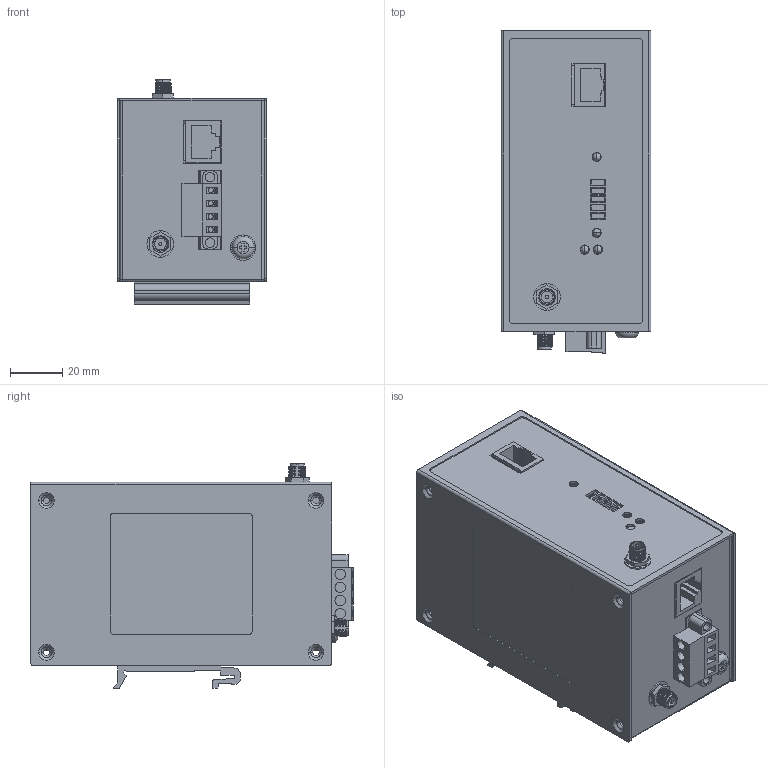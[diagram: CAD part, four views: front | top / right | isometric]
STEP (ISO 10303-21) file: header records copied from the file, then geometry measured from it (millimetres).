
FILE_DESCRIPTION((''),'2;1');
FILE_NAME('AWK-1131A','2014-08-25T',('David_Sung'),(''),'PRO/ENGINEER BY PARAMETRIC TECHNOLOGY CORPORATION, 2006020','PRO/ENGINEER BY PARAMETRIC TECHNOLOGY CORPORATION, 2006020','');
FILE_SCHEMA(('CONFIG_CONTROL_DESIGN'));
Products named in the file (1): AWK-1131A
Bounding box: 57.3 x 123.25 x 85.9 mm (x, y, z)
Surface area: 239583 mm2 (no closed solid volume)
Topology: 0 solids, 55 shells, 2640 faces, 6591 edges, 4341 vertices
Faces by surface type: plane 1399, cylinder 927, torus 114, bspline 110, cone 88, sphere 2
Entity records: 91297 total; most frequent: CARTESIAN_POINT 26753, DIRECTION 13518, ORIENTED_EDGE 13162, EDGE_CURVE 6589, AXIS2_PLACEMENT_3D 4923, VERTEX_POINT 4341, VECTOR 3672, LINE 3672
